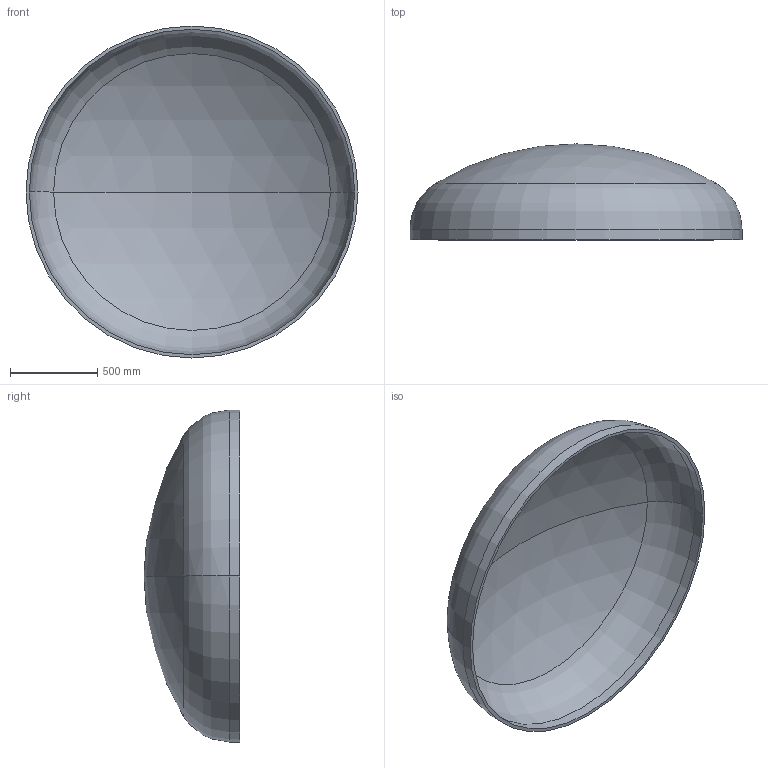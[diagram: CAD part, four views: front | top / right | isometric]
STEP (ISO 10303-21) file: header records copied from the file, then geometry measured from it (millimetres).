
FILE_DESCRIPTION (( 'STEP AP203' ), '1' );
FILE_NAME ('DIN 28013 Korbbogenform_-_Boden DIN 28013 - 1900 x 60 - I - s=19.step', '2016-07-01T12:58:32', ( '' ), ( '' ), 'SwSTEP 2.0', 'SolidWorks 2013', '' );
FILE_SCHEMA (( 'CONFIG_CONTROL_DESIGN' ));
Length unit declared in the file: millimetre
Products named in the file (1): DIN 28013 Korbbogenform_-_Boden DIN 28013 - 1900 x 60 - I - s=19
Bounding box: 1900 x 549.23 x 1900 mm (x, y, z)
Volume: 80237985.3 mm3; surface area: 8559134 mm2
Topology: 1 solids, 1 shells, 13 faces, 24 edges, 14 vertices
Faces by surface type: torus 4, cylinder 4, sphere 4, plane 1
Entity records: 407 total; most frequent: DIRECTION 72, CARTESIAN_POINT 52, ORIENTED_EDGE 48, AXIS2_PLACEMENT_3D 34, EDGE_CURVE 24, CIRCLE 20, VERTEX_POINT 14, EDGE_LOOP 14
